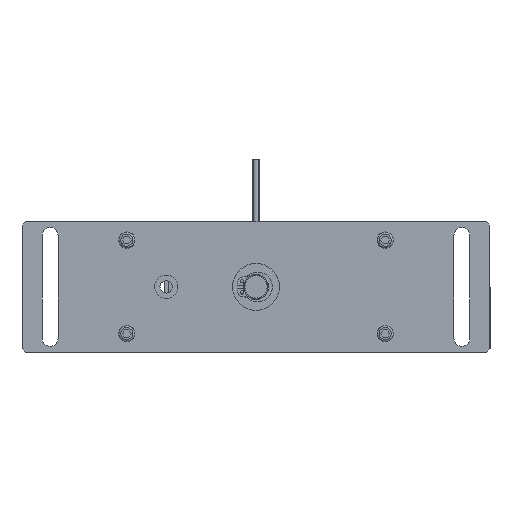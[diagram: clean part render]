
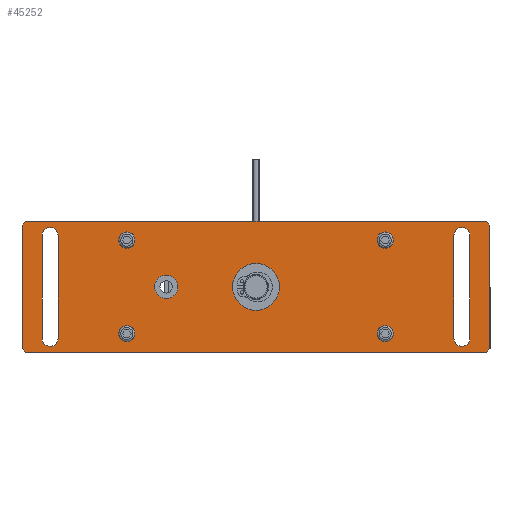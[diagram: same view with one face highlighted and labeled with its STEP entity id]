
A CAD part, front view. The second image highlights one B-rep face of the part: STEP entity #45252.
In plain terms, the highlighted planar face has unit normal (0, -1, 0) as drawn and (0, 0, 1) by its records, which use the part's own axes.
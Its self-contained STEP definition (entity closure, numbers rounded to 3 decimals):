
#1523=PLANE('',#59679);
#6157=LINE('',#86788,#10637);
#6163=LINE('',#86802,#10643);
#6167=LINE('',#86811,#10647);
#6169=LINE('',#86815,#10649);
#6181=LINE('',#86860,#10661);
#6182=LINE('',#86864,#10662);
#6183=LINE('',#86868,#10663);
#6184=LINE('',#86872,#10664);
#6185=LINE('',#86885,#10665);
#6186=LINE('',#86886,#10666);
#6187=LINE('',#86887,#10667);
#6188=LINE('',#86888,#10668);
#10637=VECTOR('',#72564,1000.);
#10643=VECTOR('',#72572,1000.);
#10647=VECTOR('',#72578,1000.);
#10649=VECTOR('',#72582,1000.);
#10661=VECTOR('',#72620,1000.);
#10662=VECTOR('',#72623,1000.);
#10663=VECTOR('',#72626,1000.);
#10664=VECTOR('',#72629,1000.);
#10665=VECTOR('',#72642,1000.);
#10666=VECTOR('',#72643,1000.);
#10667=VECTOR('',#72644,1000.);
#10668=VECTOR('',#72645,1000.);
#23865=ORIENTED_EDGE('',*,*,#30708,.F.);
#23866=ORIENTED_EDGE('',*,*,#30709,.F.);
#23867=ORIENTED_EDGE('',*,*,#30710,.F.);
#23868=ORIENTED_EDGE('',*,*,#30711,.F.);
#23869=ORIENTED_EDGE('',*,*,#30712,.F.);
#23870=ORIENTED_EDGE('',*,*,#30713,.F.);
#23871=ORIENTED_EDGE('',*,*,#30714,.F.);
#23872=ORIENTED_EDGE('',*,*,#30715,.F.);
#23873=ORIENTED_EDGE('',*,*,#30716,.T.);
#23874=ORIENTED_EDGE('',*,*,#30717,.T.);
#23875=ORIENTED_EDGE('',*,*,#30718,.T.);
#23876=ORIENTED_EDGE('',*,*,#30719,.T.);
#23877=ORIENTED_EDGE('',*,*,#30720,.T.);
#23878=ORIENTED_EDGE('',*,*,#30721,.T.);
#23879=ORIENTED_EDGE('',*,*,#30684,.T.);
#23880=ORIENTED_EDGE('',*,*,#30722,.T.);
#23881=ORIENTED_EDGE('',*,*,#30686,.T.);
#23882=ORIENTED_EDGE('',*,*,#30723,.T.);
#23883=ORIENTED_EDGE('',*,*,#30674,.T.);
#23884=ORIENTED_EDGE('',*,*,#30724,.T.);
#23885=ORIENTED_EDGE('',*,*,#30680,.T.);
#23886=ORIENTED_EDGE('',*,*,#30725,.T.);
#30674=EDGE_CURVE('',#35212,#35213,#6157,.T.);
#30680=EDGE_CURVE('',#35219,#35218,#6163,.T.);
#30684=EDGE_CURVE('',#35223,#35222,#6167,.T.);
#30686=EDGE_CURVE('',#35224,#35225,#6169,.T.);
#30708=EDGE_CURVE('',#35242,#35243,#37148,.T.);
#30709=EDGE_CURVE('',#35244,#35242,#6181,.T.);
#30710=EDGE_CURVE('',#35245,#35244,#37149,.T.);
#30711=EDGE_CURVE('',#35243,#35245,#6182,.T.);
#30712=EDGE_CURVE('',#35246,#35247,#37150,.T.);
#30713=EDGE_CURVE('',#35248,#35246,#6183,.T.);
#30714=EDGE_CURVE('',#35249,#35248,#37151,.T.);
#30715=EDGE_CURVE('',#35247,#35249,#6184,.T.);
#30716=EDGE_CURVE('',#35250,#35250,#37152,.T.);
#30717=EDGE_CURVE('',#35251,#35251,#37153,.T.);
#30718=EDGE_CURVE('',#35252,#35252,#37154,.T.);
#30719=EDGE_CURVE('',#35253,#35253,#37155,.T.);
#30720=EDGE_CURVE('',#35254,#35254,#37156,.T.);
#30721=EDGE_CURVE('',#35255,#35255,#37157,.T.);
#30722=EDGE_CURVE('',#35222,#35224,#6185,.F.);
#30723=EDGE_CURVE('',#35225,#35212,#6186,.F.);
#30724=EDGE_CURVE('',#35213,#35219,#6187,.F.);
#30725=EDGE_CURVE('',#35218,#35223,#6188,.F.);
#35212=VERTEX_POINT('',#86789);
#35213=VERTEX_POINT('',#86790);
#35218=VERTEX_POINT('',#86801);
#35219=VERTEX_POINT('',#86803);
#35222=VERTEX_POINT('',#86810);
#35223=VERTEX_POINT('',#86812);
#35224=VERTEX_POINT('',#86816);
#35225=VERTEX_POINT('',#86817);
#35242=VERTEX_POINT('',#86858);
#35243=VERTEX_POINT('',#86859);
#35244=VERTEX_POINT('',#86861);
#35245=VERTEX_POINT('',#86863);
#35246=VERTEX_POINT('',#86866);
#35247=VERTEX_POINT('',#86867);
#35248=VERTEX_POINT('',#86869);
#35249=VERTEX_POINT('',#86871);
#35250=VERTEX_POINT('',#86874);
#35251=VERTEX_POINT('',#86876);
#35252=VERTEX_POINT('',#86878);
#35253=VERTEX_POINT('',#86880);
#35254=VERTEX_POINT('',#86882);
#35255=VERTEX_POINT('',#86884);
#37148=CIRCLE('',#59680,4.25);
#37149=CIRCLE('',#59681,4.25);
#37150=CIRCLE('',#59682,4.25);
#37151=CIRCLE('',#59683,4.25);
#37152=CIRCLE('',#59684,6.25);
#37153=CIRCLE('',#59685,12.5);
#37154=CIRCLE('',#59686,4.35);
#37155=CIRCLE('',#59687,4.35);
#37156=CIRCLE('',#59688,4.35);
#37157=CIRCLE('',#59689,4.35);
#39510=EDGE_LOOP('',(#23865,#23866,#23867,#23868));
#39511=EDGE_LOOP('',(#23869,#23870,#23871,#23872));
#39512=EDGE_LOOP('',(#23873));
#39513=EDGE_LOOP('',(#23874));
#39514=EDGE_LOOP('',(#23875));
#39515=EDGE_LOOP('',(#23876));
#39516=EDGE_LOOP('',(#23877));
#39517=EDGE_LOOP('',(#23878));
#39518=EDGE_LOOP('',(#23879,#23880,#23881,#23882,#23883,#23884,#23885,#23886));
#41927=FACE_BOUND('',#39510,.T.);
#41928=FACE_BOUND('',#39511,.T.);
#41929=FACE_BOUND('',#39512,.T.);
#41930=FACE_BOUND('',#39513,.T.);
#41931=FACE_BOUND('',#39514,.T.);
#41932=FACE_BOUND('',#39515,.T.);
#41933=FACE_BOUND('',#39516,.T.);
#41934=FACE_BOUND('',#39517,.T.);
#41935=FACE_BOUND('',#39518,.T.);
#45252=ADVANCED_FACE('',(#41927,#41928,#41929,#41930,#41931,#41932,#41933,
#41934,#41935),#1523,.T.);
#59679=AXIS2_PLACEMENT_3D('',#86856,#72616,#72617);
#59680=AXIS2_PLACEMENT_3D('',#86857,#72618,#72619);
#59681=AXIS2_PLACEMENT_3D('',#86862,#72621,#72622);
#59682=AXIS2_PLACEMENT_3D('',#86865,#72624,#72625);
#59683=AXIS2_PLACEMENT_3D('',#86870,#72627,#72628);
#59684=AXIS2_PLACEMENT_3D('',#86873,#72630,#72631);
#59685=AXIS2_PLACEMENT_3D('',#86875,#72632,#72633);
#59686=AXIS2_PLACEMENT_3D('',#86877,#72634,#72635);
#59687=AXIS2_PLACEMENT_3D('',#86879,#72636,#72637);
#59688=AXIS2_PLACEMENT_3D('',#86881,#72638,#72639);
#59689=AXIS2_PLACEMENT_3D('',#86883,#72640,#72641);
#72564=DIRECTION('',(0.,-1.,0.));
#72572=DIRECTION('',(1.,0.,0.));
#72578=DIRECTION('',(0.,1.,0.));
#72582=DIRECTION('',(-1.,0.,0.));
#72616=DIRECTION('',(0.,0.,1.));
#72617=DIRECTION('',(1.,0.,0.));
#72618=DIRECTION('',(0.,0.,1.));
#72619=DIRECTION('',(0.,-1.,0.));
#72620=DIRECTION('',(0.,1.,0.));
#72621=DIRECTION('',(0.,0.,1.));
#72622=DIRECTION('',(-1.,0.,0.));
#72623=DIRECTION('',(0.,-1.,0.));
#72624=DIRECTION('',(0.,0.,1.));
#72625=DIRECTION('',(0.,-1.,0.));
#72626=DIRECTION('',(0.,1.,0.));
#72627=DIRECTION('',(0.,0.,1.));
#72628=DIRECTION('',(-1.,0.,0.));
#72629=DIRECTION('',(0.,-1.,0.));
#72630=DIRECTION('',(0.,0.,-1.));
#72631=DIRECTION('',(0.,-1.,0.));
#72632=DIRECTION('',(0.,0.,-1.));
#72633=DIRECTION('',(0.,-1.,0.));
#72634=DIRECTION('',(0.,0.,-1.));
#72635=DIRECTION('',(0.,-1.,0.));
#72636=DIRECTION('',(0.,0.,-1.));
#72637=DIRECTION('',(0.,-1.,0.));
#72638=DIRECTION('',(0.,0.,-1.));
#72639=DIRECTION('',(0.,-1.,0.));
#72640=DIRECTION('',(0.,0.,-1.));
#72641=DIRECTION('',(0.,-1.,0.));
#72642=DIRECTION('',(0.707,-0.707,0.));
#72643=DIRECTION('',(0.707,0.707,0.));
#72644=DIRECTION('',(-0.707,0.707,0.));
#72645=DIRECTION('',(-0.707,-0.707,0.));
#86788=CARTESIAN_POINT('',(-125.,35.,0.));
#86789=CARTESIAN_POINT('',(-125.,33.,0.));
#86790=CARTESIAN_POINT('',(-125.,-33.,0.));
#86801=CARTESIAN_POINT('',(123.,-35.,0.));
#86802=CARTESIAN_POINT('',(-125.,-35.,0.));
#86803=CARTESIAN_POINT('',(-123.,-35.,0.));
#86810=CARTESIAN_POINT('',(125.,33.,0.));
#86811=CARTESIAN_POINT('',(125.,-35.,0.));
#86812=CARTESIAN_POINT('',(125.,-33.,0.));
#86815=CARTESIAN_POINT('',(125.,35.,0.));
#86816=CARTESIAN_POINT('',(123.,35.,0.));
#86817=CARTESIAN_POINT('',(-123.,35.,0.));
#86856=CARTESIAN_POINT('',(-125.,-35.,0.));
#86857=CARTESIAN_POINT('',(110.,27.5,0.));
#86858=CARTESIAN_POINT('',(114.25,27.5,0.));
#86859=CARTESIAN_POINT('',(105.75,27.5,0.));
#86860=CARTESIAN_POINT('',(114.25,-27.5,0.));
#86861=CARTESIAN_POINT('',(114.25,-27.5,0.));
#86862=CARTESIAN_POINT('',(110.,-27.5,0.));
#86863=CARTESIAN_POINT('',(105.75,-27.5,0.));
#86864=CARTESIAN_POINT('',(105.75,27.5,0.));
#86865=CARTESIAN_POINT('',(-110.,27.5,0.));
#86866=CARTESIAN_POINT('',(-105.75,27.5,0.));
#86867=CARTESIAN_POINT('',(-114.25,27.5,0.));
#86868=CARTESIAN_POINT('',(-105.75,-27.5,0.));
#86869=CARTESIAN_POINT('',(-105.75,-27.5,0.));
#86870=CARTESIAN_POINT('',(-110.,-27.5,0.));
#86871=CARTESIAN_POINT('',(-114.25,-27.5,0.));
#86872=CARTESIAN_POINT('',(-114.25,27.5,0.));
#86873=CARTESIAN_POINT('',(-48.,0.,0.));
#86874=CARTESIAN_POINT('',(-48.,-6.25,0.));
#86875=CARTESIAN_POINT('',(0.,0.,0.));
#86876=CARTESIAN_POINT('',(0.,-12.5,0.));
#86877=CARTESIAN_POINT('',(-69.,-25.,0.));
#86878=CARTESIAN_POINT('',(-69.,-29.35,0.));
#86879=CARTESIAN_POINT('',(69.,-25.,0.));
#86880=CARTESIAN_POINT('',(69.,-29.35,0.));
#86881=CARTESIAN_POINT('',(69.,25.,0.));
#86882=CARTESIAN_POINT('',(69.,20.65,0.));
#86883=CARTESIAN_POINT('',(-69.,25.,0.));
#86884=CARTESIAN_POINT('',(-69.,20.65,0.));
#86885=CARTESIAN_POINT('',(34.,124.,0.));
#86886=CARTESIAN_POINT('',(-159.,-1.,0.));
#86887=CARTESIAN_POINT('',(-124.,-34.,0.));
#86888=CARTESIAN_POINT('',(-1.,-159.,0.));
